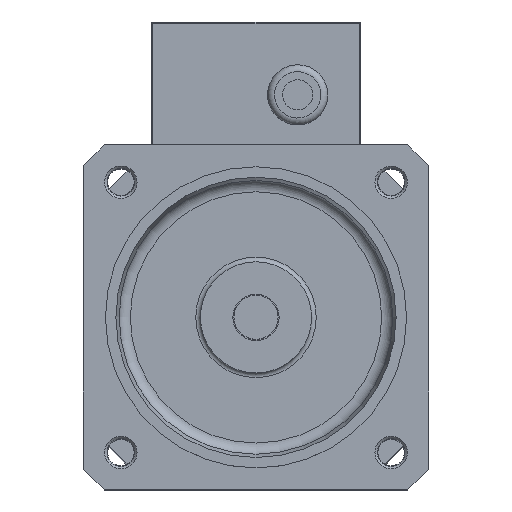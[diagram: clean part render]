
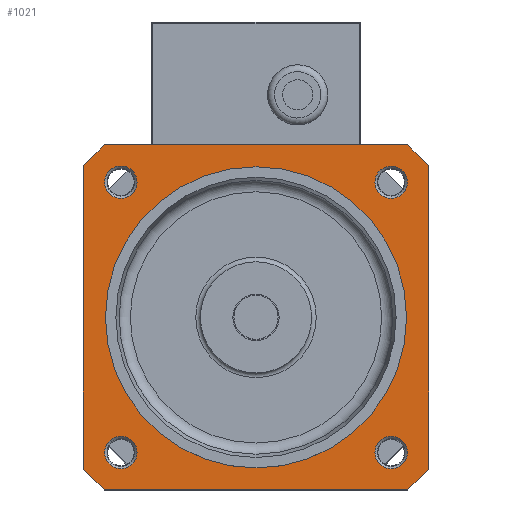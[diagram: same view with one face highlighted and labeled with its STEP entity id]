
A CAD part, top view. The second image highlights one B-rep face of the part: STEP entity #1021.
In plain terms, the highlighted planar face has unit normal (0, 0, 1).
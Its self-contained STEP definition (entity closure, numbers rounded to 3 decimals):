
#263=FACE_BOUND('',#2492,.T.);
#264=FACE_BOUND('',#2493,.T.);
#265=FACE_BOUND('',#2494,.T.);
#266=FACE_BOUND('',#2495,.T.);
#267=FACE_BOUND('',#2496,.T.);
#532=PLANE('',#11889);
#1021=ADVANCED_FACE('',(#263,#264,#265,#266,#267,#1916),#532,.T.);
#1916=FACE_OUTER_BOUND('',#2497,.T.);
#2492=EDGE_LOOP('',(#6884));
#2493=EDGE_LOOP('',(#6885));
#2494=EDGE_LOOP('',(#6886));
#2495=EDGE_LOOP('',(#6887));
#2496=EDGE_LOOP('',(#6888));
#2497=EDGE_LOOP('',(#6889,#6890,#6891,#6892,#6893,#6894,#6895,#6896));
#3472=LINE('',#18020,#4384);
#3473=LINE('',#18023,#4385);
#3474=LINE('',#18025,#4386);
#3475=LINE('',#18027,#4387);
#3476=LINE('',#18029,#4388);
#3477=LINE('',#18031,#4389);
#3478=LINE('',#18033,#4390);
#3479=LINE('',#18035,#4391);
#4384=VECTOR('',#14683,1.);
#4385=VECTOR('',#14684,1.);
#4386=VECTOR('',#14685,1.);
#4387=VECTOR('',#14686,1.);
#4388=VECTOR('',#14687,1.);
#4389=VECTOR('',#14688,1.);
#4390=VECTOR('',#14689,1.);
#4391=VECTOR('',#14690,1.);
#6884=ORIENTED_EDGE('',*,*,#9963,.T.);
#6885=ORIENTED_EDGE('',*,*,#9964,.T.);
#6886=ORIENTED_EDGE('',*,*,#9965,.T.);
#6887=ORIENTED_EDGE('',*,*,#9966,.T.);
#6888=ORIENTED_EDGE('',*,*,#9967,.F.);
#6889=ORIENTED_EDGE('',*,*,#9968,.F.);
#6890=ORIENTED_EDGE('',*,*,#9969,.T.);
#6891=ORIENTED_EDGE('',*,*,#9970,.F.);
#6892=ORIENTED_EDGE('',*,*,#9971,.T.);
#6893=ORIENTED_EDGE('',*,*,#9972,.F.);
#6894=ORIENTED_EDGE('',*,*,#9973,.T.);
#6895=ORIENTED_EDGE('',*,*,#9974,.F.);
#6896=ORIENTED_EDGE('',*,*,#9975,.T.);
#8528=VERTEX_POINT('',#18011);
#8529=VERTEX_POINT('',#18013);
#8530=VERTEX_POINT('',#18015);
#8531=VERTEX_POINT('',#18017);
#8532=VERTEX_POINT('',#18019);
#8533=VERTEX_POINT('',#18021);
#8534=VERTEX_POINT('',#18022);
#8535=VERTEX_POINT('',#18024);
#8536=VERTEX_POINT('',#18026);
#8537=VERTEX_POINT('',#18028);
#8538=VERTEX_POINT('',#18030);
#8539=VERTEX_POINT('',#18032);
#8540=VERTEX_POINT('',#18034);
#9963=EDGE_CURVE('',#8528,#8528,#10844,.T.);
#9964=EDGE_CURVE('',#8529,#8529,#10845,.T.);
#9965=EDGE_CURVE('',#8530,#8530,#10846,.T.);
#9966=EDGE_CURVE('',#8531,#8531,#10847,.T.);
#9967=EDGE_CURVE('',#8532,#8532,#10848,.T.);
#9968=EDGE_CURVE('',#8533,#8534,#3472,.T.);
#9969=EDGE_CURVE('',#8533,#8535,#3473,.T.);
#9970=EDGE_CURVE('',#8536,#8535,#3474,.T.);
#9971=EDGE_CURVE('',#8536,#8537,#3475,.T.);
#9972=EDGE_CURVE('',#8538,#8537,#3476,.T.);
#9973=EDGE_CURVE('',#8538,#8539,#3477,.T.);
#9974=EDGE_CURVE('',#8540,#8539,#3478,.T.);
#9975=EDGE_CURVE('',#8540,#8534,#3479,.T.);
#10844=CIRCLE('',#11884,6.991);
#10845=CIRCLE('',#11885,7.012);
#10846=CIRCLE('',#11886,6.991);
#10847=CIRCLE('',#11887,7.012);
#10848=CIRCLE('',#11888,65.);
#11884=AXIS2_PLACEMENT_3D('',#18010,#14673,#14674);
#11885=AXIS2_PLACEMENT_3D('',#18012,#14675,#14676);
#11886=AXIS2_PLACEMENT_3D('',#18014,#14677,#14678);
#11887=AXIS2_PLACEMENT_3D('',#18016,#14679,#14680);
#11888=AXIS2_PLACEMENT_3D('',#18018,#14681,#14682);
#11889=AXIS2_PLACEMENT_3D('',#18036,#14691,#14692);
#14673=DIRECTION('',(0.,0.,-1.));
#14674=DIRECTION('',(1.,0.,0.));
#14675=DIRECTION('',(0.,0.,-1.));
#14676=DIRECTION('',(1.,0.,0.));
#14677=DIRECTION('',(0.,0.,-1.));
#14678=DIRECTION('',(1.,0.,0.));
#14679=DIRECTION('',(0.,0.,-1.));
#14680=DIRECTION('',(1.,0.,0.));
#14681=DIRECTION('',(0.,0.,1.));
#14682=DIRECTION('',(1.,0.,0.));
#14683=DIRECTION('',(0.,1.,0.));
#14684=DIRECTION('',(0.707,-0.707,0.));
#14685=DIRECTION('',(-1.,0.,0.));
#14686=DIRECTION('',(0.707,0.707,0.));
#14687=DIRECTION('',(0.,-1.,0.));
#14688=DIRECTION('',(-0.707,0.707,0.));
#14689=DIRECTION('',(1.,0.,0.));
#14690=DIRECTION('',(-0.707,-0.707,0.));
#14691=DIRECTION('',(0.,0.,1.));
#14692=DIRECTION('',(1.,0.,0.));
#18010=CARTESIAN_POINT('',(132.836,132.836,12.));
#18011=CARTESIAN_POINT('',(139.827,132.836,12.));
#18012=CARTESIAN_POINT('',(132.836,16.164,12.));
#18013=CARTESIAN_POINT('',(139.848,16.164,12.));
#18014=CARTESIAN_POINT('',(16.164,16.164,12.));
#18015=CARTESIAN_POINT('',(23.155,16.164,12.));
#18016=CARTESIAN_POINT('',(16.164,132.836,12.));
#18017=CARTESIAN_POINT('',(23.175,132.836,12.));
#18018=CARTESIAN_POINT('',(74.5,74.5,12.));
#18019=CARTESIAN_POINT('',(139.5,74.5,12.));
#18020=CARTESIAN_POINT('',(0.,74.5,12.));
#18021=CARTESIAN_POINT('',(0.,8.99,12.));
#18022=CARTESIAN_POINT('',(0.,140.01,12.));
#18023=CARTESIAN_POINT('',(4.495,4.495,12.));
#18024=CARTESIAN_POINT('',(8.99,0.,12.));
#18025=CARTESIAN_POINT('',(74.5,0.,12.));
#18026=CARTESIAN_POINT('',(140.01,0.,12.));
#18027=CARTESIAN_POINT('',(144.505,4.495,12.));
#18028=CARTESIAN_POINT('',(149.,8.99,12.));
#18029=CARTESIAN_POINT('',(149.,74.5,12.));
#18030=CARTESIAN_POINT('',(149.,140.01,12.));
#18031=CARTESIAN_POINT('',(144.505,144.505,12.));
#18032=CARTESIAN_POINT('',(140.01,149.,12.));
#18033=CARTESIAN_POINT('',(74.5,149.,12.));
#18034=CARTESIAN_POINT('',(8.99,149.,12.));
#18035=CARTESIAN_POINT('',(4.495,144.505,12.));
#18036=CARTESIAN_POINT('',(74.5,74.5,12.));
